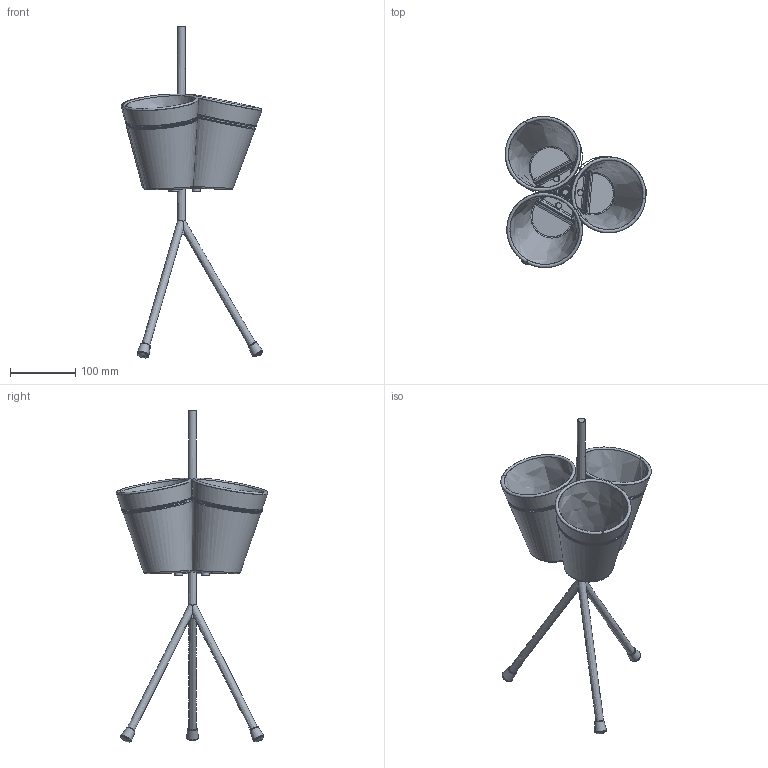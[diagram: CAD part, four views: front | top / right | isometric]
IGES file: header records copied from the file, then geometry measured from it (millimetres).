
Global section: file name: C:\Users\colombo_c\Desktop\Danese\Sito\3D mancanti\Window garden_table\Window garden_table.igs; native system: Rhinoceros ( Apr 16 2024 ); preprocessor: Trout Lake IGES 012 Apr 16 2024; date: 250717.095326; units: millimetre
Bounding box: 216.25 x 230.96 x 507.27 mm (x, y, z)
Surface area: 337984.3 mm2 (no closed solid volume)
Topology: 0 solids, 0 shells, 303 faces, 2367 edges, 2330 vertices
Faces by surface type: bspline 303
